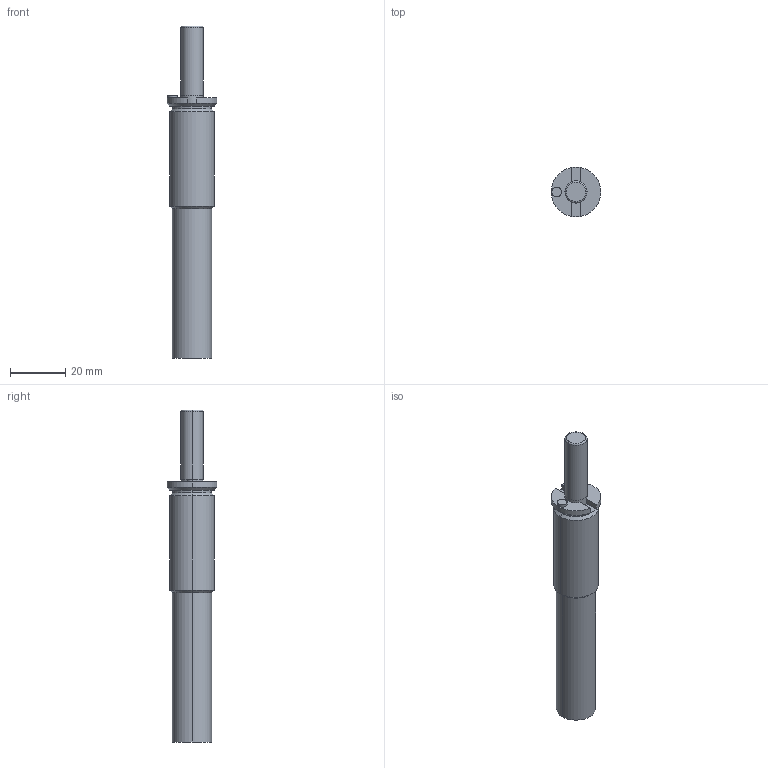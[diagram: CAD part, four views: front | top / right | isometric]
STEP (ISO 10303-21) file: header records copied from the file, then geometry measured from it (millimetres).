
FILE_DESCRIPTION(/* description */ (''),/* implementation_level */ '2;1');
FILE_NAME(/* name */ '3d_mgsb16-25_04558_r00.stp',/* time_stamp */ '2011-01-10T14:13:35+09:00',/* author */ ('MISUMI'),/* organization */ (''),/* preprocessor_version */ 'ST-DEVELOPER v11',/* originating_system */ 'UGS - NX 5.0',/* authorisation */ '');
FILE_SCHEMA (('CONFIG_CONTROL_DESIGN'));
Length unit declared in the file: millimetre
Products named in the file (1): 3d_mgsb16-25_04558_r00
Bounding box: 18 x 17.97 x 120 mm (x, y, z)
Volume: 17891.1 mm3; surface area: 5643.1 mm2
Topology: 1 solids, 1 shells, 36 faces, 78 edges, 46 vertices
Faces by surface type: cylinder 16, plane 12, cone 6, torus 2
Entity records: 1066 total; most frequent: DIRECTION 194, CARTESIAN_POINT 161, ORIENTED_EDGE 156, AXIS2_PLACEMENT_3D 79, EDGE_CURVE 78, VERTEX_POINT 46, CIRCLE 42, EDGE_LOOP 38
